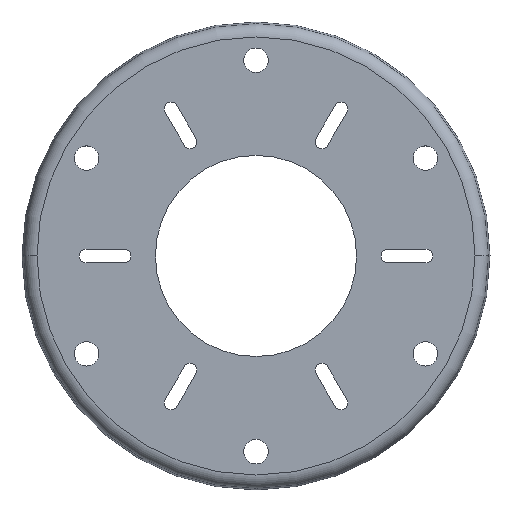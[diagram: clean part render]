
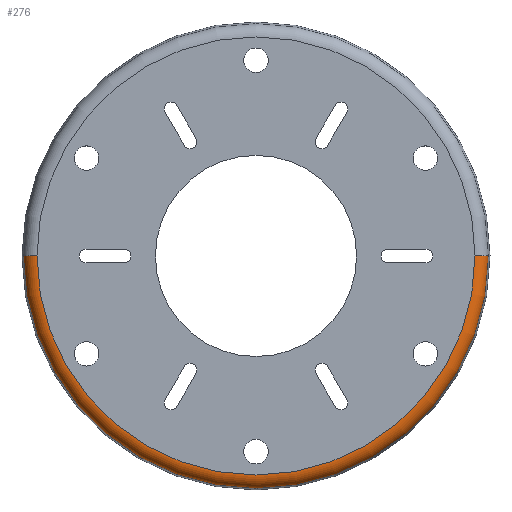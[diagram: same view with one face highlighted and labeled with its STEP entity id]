
A CAD part, top view. The second image highlights one B-rep face of the part: STEP entity #276.
In plain terms, the highlighted toroidal (fillet/blend) face has major radius 40.298 mm and minor radius 2.5 mm.
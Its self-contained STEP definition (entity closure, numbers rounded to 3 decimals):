
#73 = CARTESIAN_POINT ( 'NONE',  ( 42.713, 0., -1.853 ) ) ;
#128 = CIRCLE ( 'NONE', #907, 2.5 ) ;
#152 = FACE_OUTER_BOUND ( 'NONE', #769, .T. ) ;
#188 = DIRECTION ( 'NONE',  ( 1., 0., 0. ) ) ;
#239 = CIRCLE ( 'NONE', #761, 40.298 ) ;
#261 = VERTEX_POINT ( 'NONE', #878 ) ;
#276 = ADVANCED_FACE ( 'NONE', ( #152 ), #1770, .T. ) ;
#398 = CARTESIAN_POINT ( 'NONE',  ( 0., 0., 0. ) ) ;
#513 = CARTESIAN_POINT ( 'NONE',  ( -40.298, 0., -2.5 ) ) ;
#524 = VERTEX_POINT ( 'NONE', #983 ) ;
#571 = CIRCLE ( 'NONE', #1503, 42.713 ) ;
#595 = DIRECTION ( 'NONE',  ( 0., 0., -1. ) ) ;
#628 = CARTESIAN_POINT ( 'NONE',  ( 0., 0., -1.853 ) ) ;
#638 = DIRECTION ( 'NONE',  ( -1., 0., 0. ) ) ;
#651 = CARTESIAN_POINT ( 'NONE',  ( -42.713, 0., -1.853 ) ) ;
#733 = DIRECTION ( 'NONE',  ( 0., -1., 0. ) ) ;
#761 = AXIS2_PLACEMENT_3D ( 'NONE', #398, #1701, #981 ) ;
#769 = EDGE_LOOP ( 'NONE', ( #775, #1483, #1502, #1781 ) ) ;
#775 = ORIENTED_EDGE ( 'NONE', *, *, #1183, .F. ) ;
#797 = VERTEX_POINT ( 'NONE', #73 ) ;
#813 = EDGE_CURVE ( 'NONE', #1719, #797, #571, .T. ) ;
#821 = CARTESIAN_POINT ( 'NONE',  ( 0., 0., -2.5 ) ) ;
#878 = CARTESIAN_POINT ( 'NONE',  ( 40.298, 0., 0. ) ) ;
#880 = EDGE_CURVE ( 'NONE', #524, #261, #239, .T. ) ;
#907 = AXIS2_PLACEMENT_3D ( 'NONE', #1032, #733, #595 ) ;
#945 = AXIS2_PLACEMENT_3D ( 'NONE', #821, #1831, #188 ) ;
#981 = DIRECTION ( 'NONE',  ( 1., 0., 0. ) ) ;
#983 = CARTESIAN_POINT ( 'NONE',  ( -40.298, 0., 0. ) ) ;
#1032 = CARTESIAN_POINT ( 'NONE',  ( 40.298, 0., -2.5 ) ) ;
#1183 = EDGE_CURVE ( 'NONE', #1719, #524, #1475, .T. ) ;
#1281 = AXIS2_PLACEMENT_3D ( 'NONE', #513, #1818, #638 ) ;
#1475 = CIRCLE ( 'NONE', #1281, 2.5 ) ;
#1483 = ORIENTED_EDGE ( 'NONE', *, *, #813, .T. ) ;
#1502 = ORIENTED_EDGE ( 'NONE', *, *, #1507, .T. ) ;
#1503 = AXIS2_PLACEMENT_3D ( 'NONE', #628, #1522, #1829 ) ;
#1507 = EDGE_CURVE ( 'NONE', #797, #261, #128, .T. ) ;
#1522 = DIRECTION ( 'NONE',  ( 0., 0., 1. ) ) ;
#1701 = DIRECTION ( 'NONE',  ( 0., 0., 1. ) ) ;
#1719 = VERTEX_POINT ( 'NONE', #651 ) ;
#1770 = TOROIDAL_SURFACE ( 'NONE', #945, 40.298, 2.5 ) ;
#1781 = ORIENTED_EDGE ( 'NONE', *, *, #880, .F. ) ;
#1818 = DIRECTION ( 'NONE',  ( 0., 1., 0. ) ) ;
#1829 = DIRECTION ( 'NONE',  ( 1., 0., 0. ) ) ;
#1831 = DIRECTION ( 'NONE',  ( 0., 0., 1. ) ) ;
